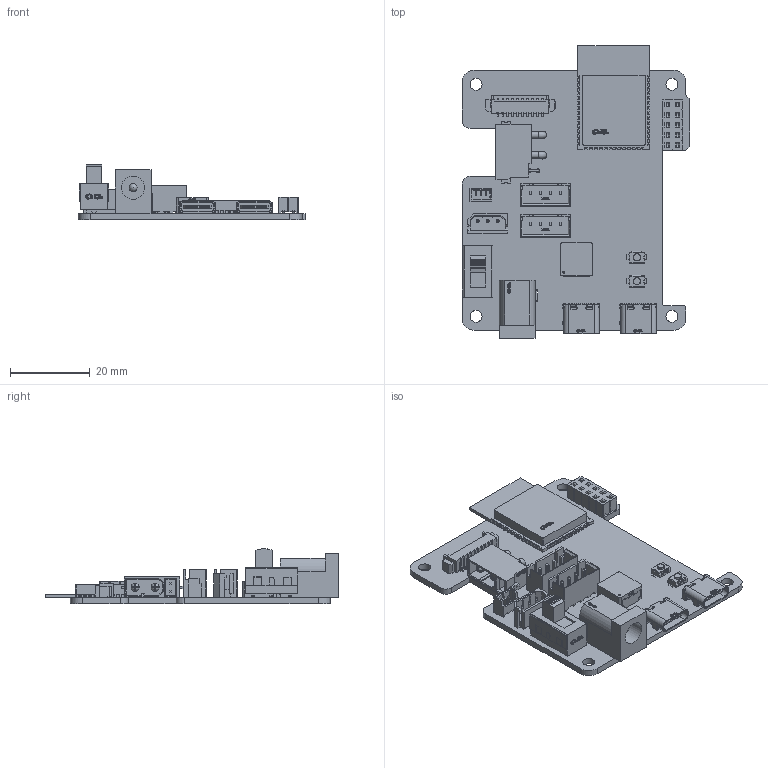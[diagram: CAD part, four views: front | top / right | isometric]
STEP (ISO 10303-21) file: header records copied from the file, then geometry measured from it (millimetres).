
FILE_DESCRIPTION(/* description */ (''),/* implementation_level */ '2;1');
FILE_NAME(/* name */ 'RD_Lite_step.step',/* time_stamp */ '2025-10-21T21:20:35+08:00',/* author */ (''),/* organization */ (''),/* preprocessor_version */ 'ST-DEVELOPER v20.1',/* originating_system */ 'Autodesk Translation Framework v14.17.0.0',/* authorisation */ '');
FILE_SCHEMA (('AUTOMOTIVE_DESIGN { 1 0 10303 214 3 1 1 }'));
Products named in the file (2): PCB - Robot Driver with ESP32S3 Lite - SingleS; 零部件148
Assembly tree (1 placements, depth 2):
  PCB - Robot Driver with ESP32S3 Lite - SingleS
    零部件148
Bounding box: 56.97 x 73.25 x 14 mm (x, y, z)
Volume: 9860.4 mm3; surface area: 14124.3 mm2
Topology: 1 solids, 6 shells, 7043 faces, 19544 edges, 12946 vertices
Faces by surface type: plane 4768, bspline 1644, cylinder 602, cone 15, sphere 9, torus 5
Full cylindrical faces by diameter (mm): 0.489 x1, 0.5 x8, 0.6 x3, 0.7 x14, 0.914 x2, 1 x3, 1.1 x18, 1.6 x4, 1.7 x3, 1.8 x3, 1.9 x2, 2 x1, 2.4 x1, 3 x4, 5.8 x1
Entity records: 245528 total; most frequent: CARTESIAN_POINT 71134, ORIENTED_EDGE 39086, DIRECTION 30694, EDGE_CURVE 19543, LINE 14890, VECTOR 14890, VERTEX_POINT 12946, AXIS2_PLACEMENT_3D 7902
